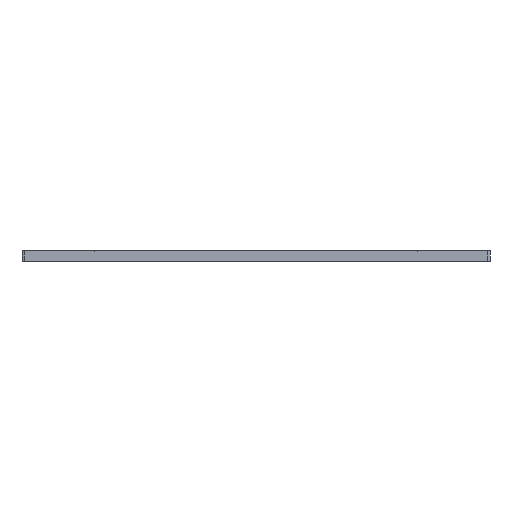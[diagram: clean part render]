
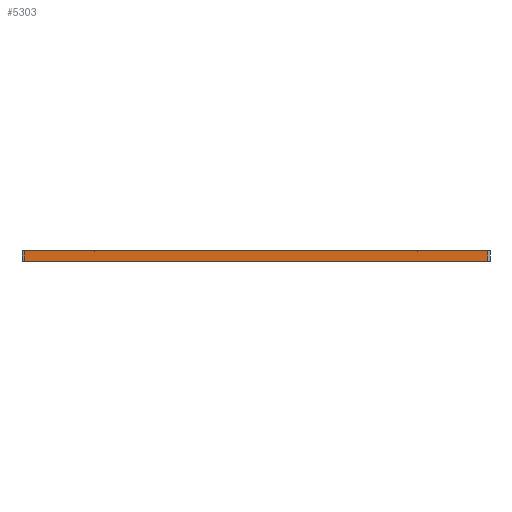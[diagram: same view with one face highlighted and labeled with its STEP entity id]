
A CAD part, left-side view. The second image highlights one B-rep face of the part: STEP entity #5303.
In plain terms, the highlighted planar face has unit normal (-1, 0, 0).
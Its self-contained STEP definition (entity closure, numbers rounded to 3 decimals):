
#218 = VERTEX_POINT ( 'NONE', #6308 ) ;
#239 = CARTESIAN_POINT ( 'NONE',  ( -32.825, 34.38, 1.5 ) ) ;
#458 = EDGE_CURVE ( 'NONE', #3456, #3263, #2413, .T. ) ;
#908 = VERTEX_POINT ( 'NONE', #2540 ) ;
#1244 = EDGE_CURVE ( 'NONE', #3263, #218, #6538, .T. ) ;
#1296 = DIRECTION ( 'NONE',  ( 0., -1., 0. ) ) ;
#1789 = VECTOR ( 'NONE', #1296, 1000. ) ;
#1890 = CARTESIAN_POINT ( 'NONE',  ( -32.825, -33.53, 1.5 ) ) ;
#1909 = ORIENTED_EDGE ( 'NONE', *, *, #458, .T. ) ;
#2152 = AXIS2_PLACEMENT_3D ( 'NONE', #239, #3853, #2308 ) ;
#2170 = FACE_OUTER_BOUND ( 'NONE', #3323, .T. ) ;
#2232 = VECTOR ( 'NONE', #2925, 1000. ) ;
#2308 = DIRECTION ( 'NONE',  ( 0., 1., 0. ) ) ;
#2413 = LINE ( 'NONE', #6488, #1789 ) ;
#2478 = CARTESIAN_POINT ( 'NONE',  ( -32.825, 34.08, 1.5 ) ) ;
#2540 = CARTESIAN_POINT ( 'NONE',  ( -32.825, 34.08, 1.5 ) ) ;
#2743 = ORIENTED_EDGE ( 'NONE', *, *, #1244, .T. ) ;
#2925 = DIRECTION ( 'NONE',  ( 0., -1., 0. ) ) ;
#3084 = EDGE_CURVE ( 'NONE', #908, #3456, #4788, .T. ) ;
#3208 = CARTESIAN_POINT ( 'NONE',  ( -32.825, -33.53, 0. ) ) ;
#3263 = VERTEX_POINT ( 'NONE', #3208 ) ;
#3318 = ORIENTED_EDGE ( 'NONE', *, *, #4271, .F. ) ;
#3323 = EDGE_LOOP ( 'NONE', ( #1909, #2743, #3318, #5647 ) ) ;
#3379 = CARTESIAN_POINT ( 'NONE',  ( -32.825, 34.08, 0. ) ) ;
#3393 = LINE ( 'NONE', #4989, #2232 ) ;
#3456 = VERTEX_POINT ( 'NONE', #3379 ) ;
#3468 = VECTOR ( 'NONE', #6431, 1000. ) ;
#3853 = DIRECTION ( 'NONE',  ( 1., 0., 0. ) ) ;
#3944 = DIRECTION ( 'NONE',  ( 0., 0., 1. ) ) ;
#4271 = EDGE_CURVE ( 'NONE', #908, #218, #3393, .T. ) ;
#4385 = VECTOR ( 'NONE', #3944, 1000. ) ;
#4788 = LINE ( 'NONE', #2478, #3468 ) ;
#4989 = CARTESIAN_POINT ( 'NONE',  ( -32.825, 34.38, 1.5 ) ) ;
#5303 = ADVANCED_FACE ( 'NONE', ( #2170 ), #5904, .F. ) ;
#5647 = ORIENTED_EDGE ( 'NONE', *, *, #3084, .T. ) ;
#5904 = PLANE ( 'NONE',  #2152 ) ;
#6308 = CARTESIAN_POINT ( 'NONE',  ( -32.825, -33.53, 1.5 ) ) ;
#6431 = DIRECTION ( 'NONE',  ( 0., 0., -1. ) ) ;
#6488 = CARTESIAN_POINT ( 'NONE',  ( -32.825, 34.38, 0. ) ) ;
#6538 = LINE ( 'NONE', #1890, #4385 ) ;
